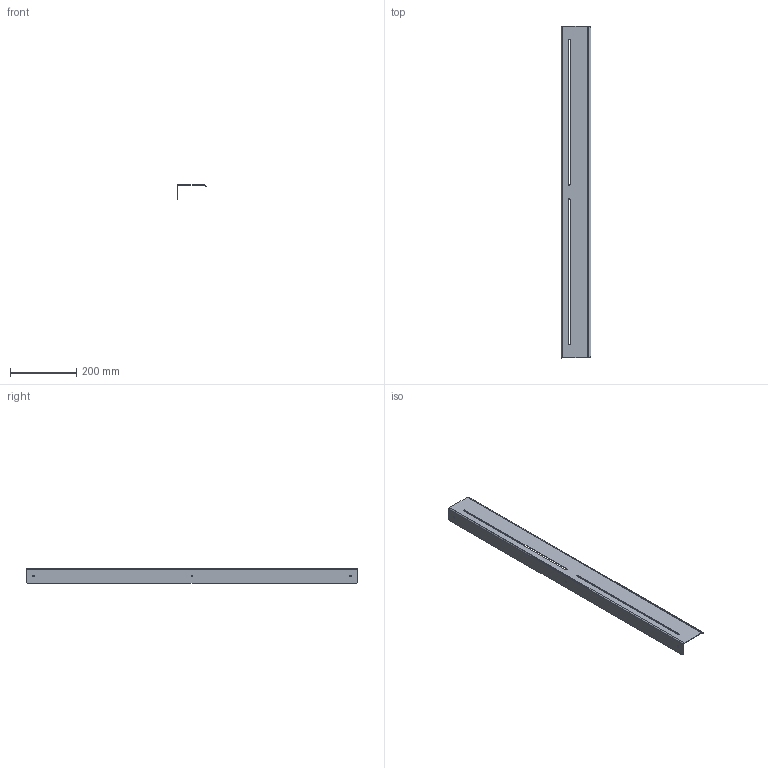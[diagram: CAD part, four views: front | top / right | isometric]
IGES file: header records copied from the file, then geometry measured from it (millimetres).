
Start section: IGES file generated by C3D Converter 1.5 translator by C3D Labs., translator version IGESOUT-5.1.
Global section: file name: D:\×åðòåæè èçäåëèé Âàííà 2023\Ïîëêè Simple Íîâûå\3D\×åðòåæè 22.07.2023\3D\S²MPLE_2_1000.igs; preprocessor: 1.0; author: a.kalenyk83@gmail.com; organization: unknown; date: -17770622:112749; units: millimetre
Bounding box: 88.5 x 1000 x 45 mm (x, y, z)
Volume: 191495.2 mm3; surface area: 261444.8 mm2
Topology: 1 solids, 1 shells, 40 faces, 98 edges, 60 vertices
Faces by surface type: bspline 22, revolution 18
